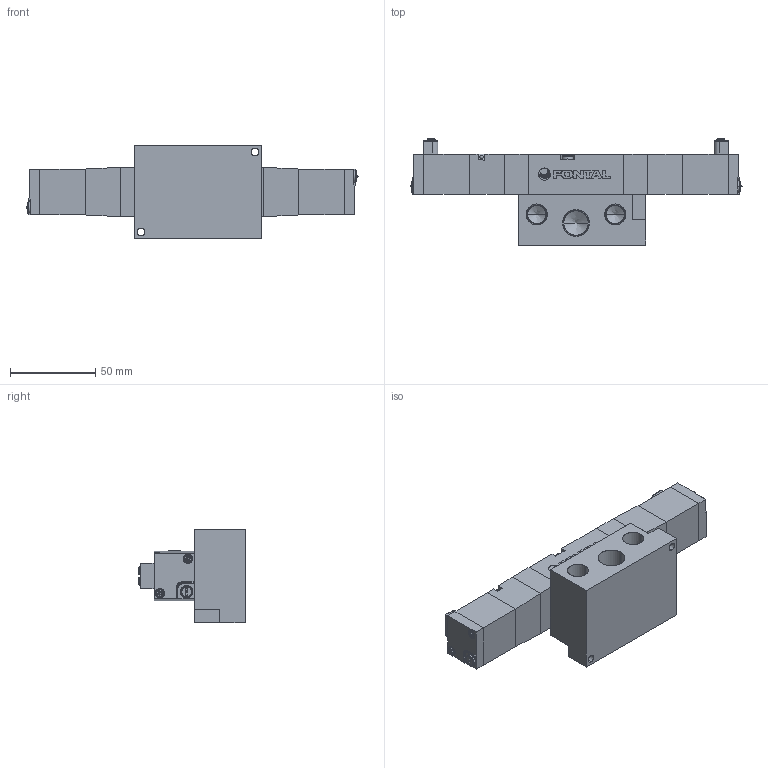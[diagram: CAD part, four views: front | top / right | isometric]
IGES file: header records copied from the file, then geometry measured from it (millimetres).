
Start section: SolidWorks IGES file using analytic representation for surfaces
Global section: file name: D:\Custom\3D繪製\PC\PC08\PCD3408#-03-#L#.IGS,1; native system: 5HSolidWorks 2014; preprocessor: SolidWorks 2014; author: Chieh_Lu; date: 150803.153154; units: millimetre
Bounding box: 194.95 x 62.5 x 55 mm (x, y, z)
Surface area: 55083 mm2 (no closed solid volume)
Topology: 0 solids, 0 shells, 540 faces, 5402 edges, 5372 vertices
Faces by surface type: bspline 348, revolution 192
